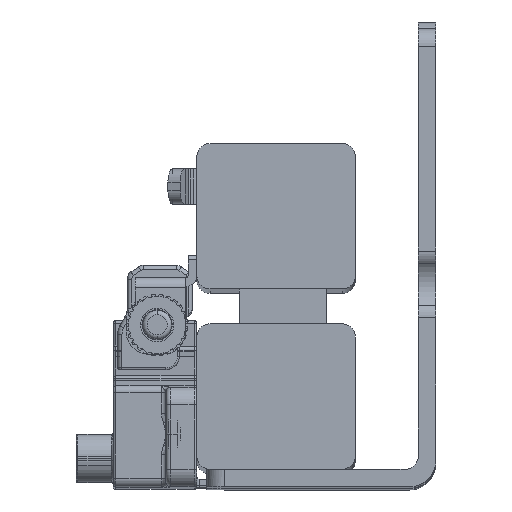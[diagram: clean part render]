
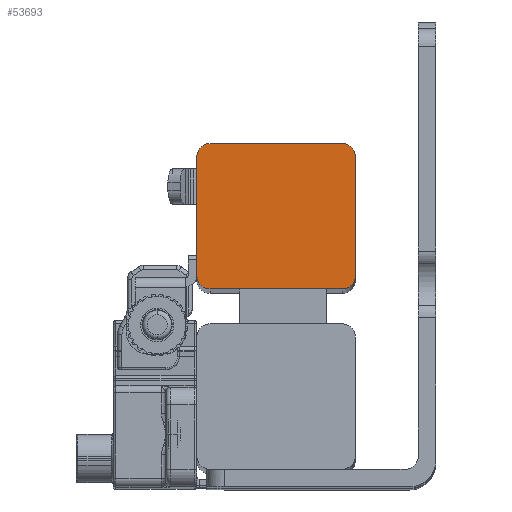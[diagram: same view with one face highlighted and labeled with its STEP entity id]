
A CAD part, top view. The second image highlights one B-rep face of the part: STEP entity #53693.
In plain terms, the highlighted planar face has unit normal (0, 0, 1).
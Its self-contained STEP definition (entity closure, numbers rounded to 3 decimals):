
#978 = DIRECTION ( 'NONE',  ( 0., -1., 0. ) ) ;
#1680 = ORIENTED_EDGE ( 'NONE', *, *, #58461, .T. ) ;
#1794 = LINE ( 'NONE', #13535, #72888 ) ;
#2847 = DIRECTION ( 'NONE',  ( 1., 0., 0. ) ) ;
#4619 = EDGE_CURVE ( 'NONE', #45657, #53841, #24077, .T. ) ;
#5624 = CARTESIAN_POINT ( 'NONE',  ( 9., 6.75, 293.1 ) ) ;
#5873 = DIRECTION ( 'NONE',  ( 0., 0., 1. ) ) ;
#9941 = AXIS2_PLACEMENT_3D ( 'NONE', #31850, #5873, #70781 ) ;
#10797 = CARTESIAN_POINT ( 'NONE',  ( 7.5, -8.25, 293.1 ) ) ;
#11220 = CARTESIAN_POINT ( 'NONE',  ( -7.5, 8.25, 293.1 ) ) ;
#12160 = DIRECTION ( 'NONE',  ( 0., 0., 1. ) ) ;
#13437 = ORIENTED_EDGE ( 'NONE', *, *, #35233, .T. ) ;
#13531 = CIRCLE ( 'NONE', #60356, 1.5 ) ;
#13535 = CARTESIAN_POINT ( 'NONE',  ( -9., 8.25, 293.1 ) ) ;
#15212 = CARTESIAN_POINT ( 'NONE',  ( 7.5, 6.75, 293.1 ) ) ;
#17117 = ORIENTED_EDGE ( 'NONE', *, *, #35340, .T. ) ;
#18669 = VERTEX_POINT ( 'NONE', #10797 ) ;
#18993 = VERTEX_POINT ( 'NONE', #78193 ) ;
#20623 = EDGE_CURVE ( 'NONE', #47759, #30958, #29870, .T. ) ;
#21893 = CARTESIAN_POINT ( 'NONE',  ( 9., 6.75, 293.1 ) ) ;
#24077 = LINE ( 'NONE', #5624, #78245 ) ;
#26091 = CIRCLE ( 'NONE', #36782, 1.5 ) ;
#28258 = CARTESIAN_POINT ( 'NONE',  ( -7.5, -8.25, 293.1 ) ) ;
#29870 = CIRCLE ( 'NONE', #65966, 1.5 ) ;
#30958 = VERTEX_POINT ( 'NONE', #43144 ) ;
#31850 = CARTESIAN_POINT ( 'NONE',  ( -7.51, 6.76, 293.1 ) ) ;
#35094 = DIRECTION ( 'NONE',  ( 0., 0., 1. ) ) ;
#35175 = EDGE_LOOP ( 'NONE', ( #1680, #38588, #61850, #17117, #71209, #58584, #13437, #66043 ) ) ;
#35233 = EDGE_CURVE ( 'NONE', #67706, #56373, #69799, .T. ) ;
#35340 = EDGE_CURVE ( 'NONE', #18669, #45657, #45223, .T. ) ;
#36026 = CARTESIAN_POINT ( 'NONE',  ( 9., -6.75, 293.1 ) ) ;
#36782 = AXIS2_PLACEMENT_3D ( 'NONE', #45148, #52657, #45955 ) ;
#37160 = DIRECTION ( 'NONE',  ( -1., 0., 0. ) ) ;
#37575 = EDGE_CURVE ( 'NONE', #30958, #18669, #59680, .T. ) ;
#38588 = ORIENTED_EDGE ( 'NONE', *, *, #20623, .T. ) ;
#42006 = DIRECTION ( 'NONE',  ( -1., 0., 0. ) ) ;
#43144 = CARTESIAN_POINT ( 'NONE',  ( -7.5, -8.25, 293.1 ) ) ;
#44846 = FACE_OUTER_BOUND ( 'NONE', #35175, .T. ) ;
#45148 = CARTESIAN_POINT ( 'NONE',  ( -7.5, 6.75, 293.1 ) ) ;
#45223 = CIRCLE ( 'NONE', #55913, 1.5 ) ;
#45256 = PLANE ( 'NONE',  #9941 ) ;
#45657 = VERTEX_POINT ( 'NONE', #36026 ) ;
#45955 = DIRECTION ( 'NONE',  ( 1., 0., 0. ) ) ;
#47759 = VERTEX_POINT ( 'NONE', #70413 ) ;
#49389 = VECTOR ( 'NONE', #79338, 1000. ) ;
#50537 = VECTOR ( 'NONE', #37160, 1000. ) ;
#52657 = DIRECTION ( 'NONE',  ( 0., 0., 1. ) ) ;
#53693 = ADVANCED_FACE ( 'NONE', ( #44846 ), #45256, .T. ) ;
#53841 = VERTEX_POINT ( 'NONE', #21893 ) ;
#53963 = CARTESIAN_POINT ( 'NONE',  ( 7.5, -6.75, 293.1 ) ) ;
#55913 = AXIS2_PLACEMENT_3D ( 'NONE', #53963, #35094, #2847 ) ;
#56373 = VERTEX_POINT ( 'NONE', #11220 ) ;
#56583 = EDGE_CURVE ( 'NONE', #56373, #18993, #26091, .T. ) ;
#58461 = EDGE_CURVE ( 'NONE', #18993, #47759, #1794, .T. ) ;
#58584 = ORIENTED_EDGE ( 'NONE', *, *, #75196, .T. ) ;
#59680 = LINE ( 'NONE', #28258, #49389 ) ;
#60356 = AXIS2_PLACEMENT_3D ( 'NONE', #15212, #60440, #42006 ) ;
#60440 = DIRECTION ( 'NONE',  ( 0., 0., 1. ) ) ;
#61850 = ORIENTED_EDGE ( 'NONE', *, *, #37575, .T. ) ;
#62244 = CARTESIAN_POINT ( 'NONE',  ( 7.5, 8.25, 293.1 ) ) ;
#65966 = AXIS2_PLACEMENT_3D ( 'NONE', #74581, #12160, #68722 ) ;
#66043 = ORIENTED_EDGE ( 'NONE', *, *, #56583, .T. ) ;
#67706 = VERTEX_POINT ( 'NONE', #62244 ) ;
#68722 = DIRECTION ( 'NONE',  ( 1., 0., 0. ) ) ;
#69388 = CARTESIAN_POINT ( 'NONE',  ( -9., 8.25, 293.1 ) ) ;
#69799 = LINE ( 'NONE', #69388, #50537 ) ;
#70413 = CARTESIAN_POINT ( 'NONE',  ( -9., -6.75, 293.1 ) ) ;
#70781 = DIRECTION ( 'NONE',  ( 1., 0., 0. ) ) ;
#71209 = ORIENTED_EDGE ( 'NONE', *, *, #4619, .T. ) ;
#72888 = VECTOR ( 'NONE', #978, 1000. ) ;
#74581 = CARTESIAN_POINT ( 'NONE',  ( -7.5, -6.75, 293.1 ) ) ;
#75196 = EDGE_CURVE ( 'NONE', #53841, #67706, #13531, .T. ) ;
#78193 = CARTESIAN_POINT ( 'NONE',  ( -9., 6.75, 293.1 ) ) ;
#78245 = VECTOR ( 'NONE', #82285, 1000. ) ;
#79338 = DIRECTION ( 'NONE',  ( 1., 0., 0. ) ) ;
#82285 = DIRECTION ( 'NONE',  ( 0., 1., 0. ) ) ;
